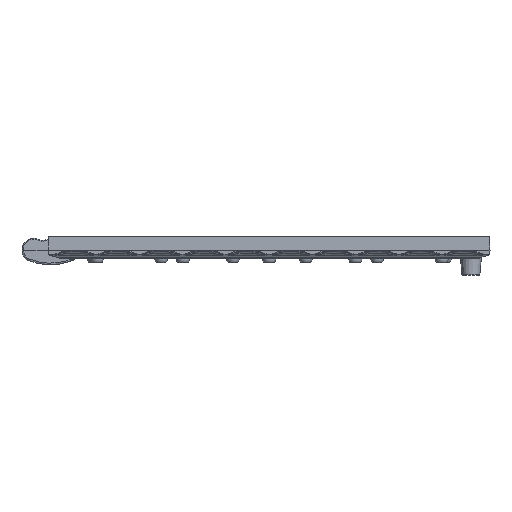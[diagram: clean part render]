
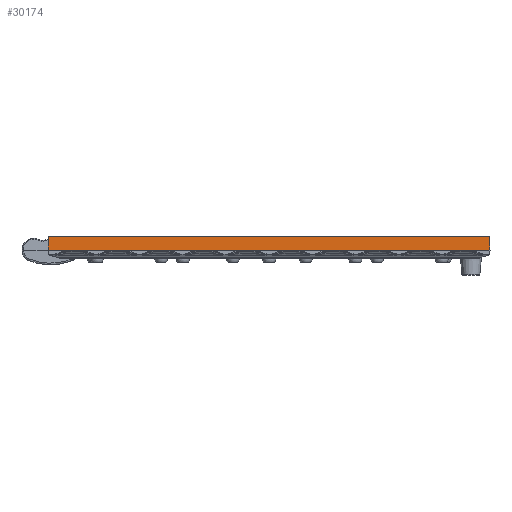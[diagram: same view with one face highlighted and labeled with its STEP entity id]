
A CAD part, front view. The second image highlights one B-rep face of the part: STEP entity #30174.
In plain terms, the highlighted planar face has unit normal (0, -1, 0.018).
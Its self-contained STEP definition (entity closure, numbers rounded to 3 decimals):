
#537 = DIRECTION ( 'NONE',  ( 1., 0., 0. ) ) ;
#645 = LINE ( 'NONE', #28668, #22469 ) ;
#1069 = VERTEX_POINT ( 'NONE', #27347 ) ;
#2537 = EDGE_CURVE ( 'NONE', #1069, #30528, #16463, .T. ) ;
#2726 = VECTOR ( 'NONE', #30075, 1000. ) ;
#4248 = FACE_OUTER_BOUND ( 'NONE', #13828, .T. ) ;
#5554 = ORIENTED_EDGE ( 'NONE', *, *, #2537, .F. ) ;
#5919 = EDGE_CURVE ( 'NONE', #1069, #16175, #645, .T. ) ;
#9849 = ORIENTED_EDGE ( 'NONE', *, *, #23246, .F. ) ;
#12597 = LINE ( 'NONE', #26051, #20290 ) ;
#12959 = ORIENTED_EDGE ( 'NONE', *, *, #5919, .T. ) ;
#13380 = AXIS2_PLACEMENT_3D ( 'NONE', #26500, #14518, #32141 ) ;
#13828 = EDGE_LOOP ( 'NONE', ( #9849, #5554, #12959, #32612 ) ) ;
#14518 = DIRECTION ( 'NONE',  ( 0., -1., 0.017 ) ) ;
#16175 = VERTEX_POINT ( 'NONE', #31380 ) ;
#16463 = LINE ( 'NONE', #27484, #2726 ) ;
#18652 = VECTOR ( 'NONE', #27164, 1000. ) ;
#19305 = CARTESIAN_POINT ( 'NONE',  ( 266., -155.98, 0. ) ) ;
#19793 = CARTESIAN_POINT ( 'NONE',  ( 265.919, -155.899, 4.64 ) ) ;
#20290 = VECTOR ( 'NONE', #537, 1000. ) ;
#21723 = CARTESIAN_POINT ( 'NONE',  ( -266., -155.98, 0. ) ) ;
#22469 = VECTOR ( 'NONE', #26397, 1000. ) ;
#23246 = EDGE_CURVE ( 'NONE', #30528, #29626, #12597, .T. ) ;
#23887 = EDGE_CURVE ( 'NONE', #16175, #29626, #24717, .T. ) ;
#24717 = LINE ( 'NONE', #19793, #18652 ) ;
#26051 = CARTESIAN_POINT ( 'NONE',  ( 0., -155.98, 0. ) ) ;
#26397 = DIRECTION ( 'NONE',  ( 1., 0., 0. ) ) ;
#26500 = CARTESIAN_POINT ( 'NONE',  ( 0., -155.98, 0. ) ) ;
#27164 = DIRECTION ( 'NONE',  ( -0.017, 0.017, 1. ) ) ;
#27347 = CARTESIAN_POINT ( 'NONE',  ( -266.276, -156.256, -15.8 ) ) ;
#27484 = CARTESIAN_POINT ( 'NONE',  ( -265.953, -155.933, 2.721 ) ) ;
#28668 = CARTESIAN_POINT ( 'NONE',  ( 0., -156.256, -15.8 ) ) ;
#28997 = PLANE ( 'NONE',  #13380 ) ;
#29626 = VERTEX_POINT ( 'NONE', #19305 ) ;
#30075 = DIRECTION ( 'NONE',  ( 0.017, 0.017, 1. ) ) ;
#30174 = ADVANCED_FACE ( 'NONE', ( #4248 ), #28997, .T. ) ;
#30528 = VERTEX_POINT ( 'NONE', #21723 ) ;
#31380 = CARTESIAN_POINT ( 'NONE',  ( 266.276, -156.256, -15.8 ) ) ;
#32141 = DIRECTION ( 'NONE',  ( 0., -0.017, -1. ) ) ;
#32612 = ORIENTED_EDGE ( 'NONE', *, *, #23887, .T. ) ;
